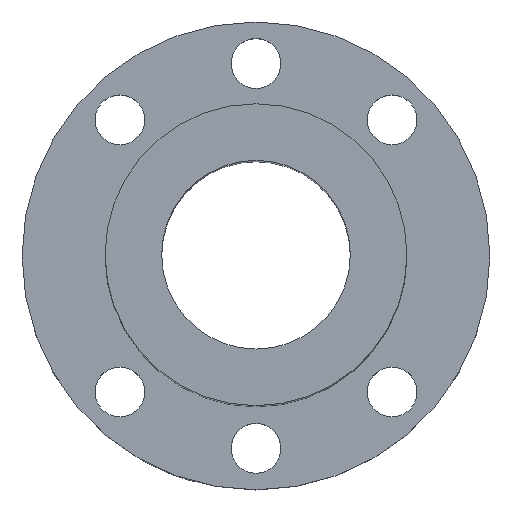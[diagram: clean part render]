
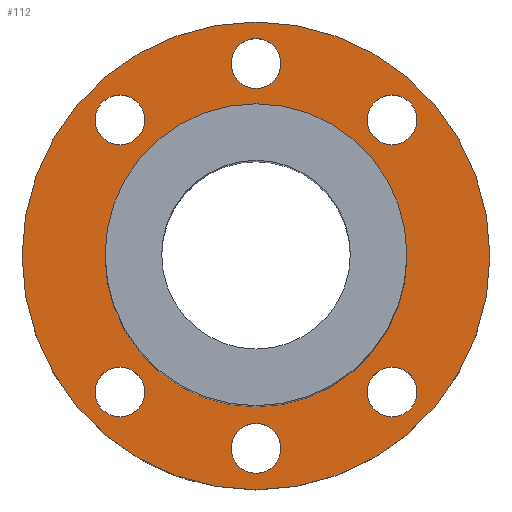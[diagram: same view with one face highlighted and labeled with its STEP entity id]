
A CAD part, top view. The second image highlights one B-rep face of the part: STEP entity #112.
In plain terms, the highlighted planar face has unit normal (0, 0, 1).
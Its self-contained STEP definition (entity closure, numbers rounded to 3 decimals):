
#99=PLANE('',#355);
#112=ADVANCED_FACE('',(#159,#160,#161,#162,#163,#164,#165,#166),#99,.T.);
#159=FACE_BOUND('',#203,.T.);
#160=FACE_BOUND('',#204,.T.);
#161=FACE_BOUND('',#205,.T.);
#162=FACE_BOUND('',#206,.T.);
#163=FACE_BOUND('',#207,.T.);
#164=FACE_BOUND('',#208,.T.);
#165=FACE_BOUND('',#209,.T.);
#166=FACE_BOUND('',#210,.T.);
#203=EDGE_LOOP('',(#247));
#204=EDGE_LOOP('',(#248));
#205=EDGE_LOOP('',(#249));
#206=EDGE_LOOP('',(#250));
#207=EDGE_LOOP('',(#251));
#208=EDGE_LOOP('',(#252));
#209=EDGE_LOOP('',(#253));
#210=EDGE_LOOP('',(#254));
#247=ORIENTED_EDGE('',*,*,#284,.T.);
#248=ORIENTED_EDGE('',*,*,#301,.T.);
#249=ORIENTED_EDGE('',*,*,#300,.F.);
#250=ORIENTED_EDGE('',*,*,#299,.F.);
#251=ORIENTED_EDGE('',*,*,#286,.T.);
#252=ORIENTED_EDGE('',*,*,#298,.T.);
#253=ORIENTED_EDGE('',*,*,#297,.F.);
#254=ORIENTED_EDGE('',*,*,#302,.T.);
#262=VERTEX_POINT('',#437);
#264=VERTEX_POINT('',#499);
#275=VERTEX_POINT('',#582);
#276=VERTEX_POINT('',#585);
#277=VERTEX_POINT('',#588);
#278=VERTEX_POINT('',#591);
#279=VERTEX_POINT('',#594);
#280=VERTEX_POINT('',#597);
#284=EDGE_CURVE('',#262,#262,#306,.T.);
#286=EDGE_CURVE('',#264,#264,#307,.T.);
#297=EDGE_CURVE('',#275,#275,#317,.T.);
#298=EDGE_CURVE('',#276,#276,#318,.T.);
#299=EDGE_CURVE('',#277,#277,#319,.T.);
#300=EDGE_CURVE('',#278,#278,#320,.T.);
#301=EDGE_CURVE('',#279,#279,#321,.T.);
#302=EDGE_CURVE('',#280,#280,#322,.T.);
#306=CIRCLE('',#327,31.);
#307=CIRCLE('',#329,20.);
#317=CIRCLE('',#343,3.3);
#318=CIRCLE('',#345,3.3);
#319=CIRCLE('',#347,3.3);
#320=CIRCLE('',#349,3.3);
#321=CIRCLE('',#351,3.3);
#322=CIRCLE('',#353,3.3);
#327=AXIS2_PLACEMENT_3D('',#436,#365,#366);
#329=AXIS2_PLACEMENT_3D('',#498,#369,#370);
#343=AXIS2_PLACEMENT_3D('',#581,#397,#398);
#345=AXIS2_PLACEMENT_3D('',#584,#401,#402);
#347=AXIS2_PLACEMENT_3D('',#587,#405,#406);
#349=AXIS2_PLACEMENT_3D('',#590,#409,#410);
#351=AXIS2_PLACEMENT_3D('',#593,#413,#414);
#353=AXIS2_PLACEMENT_3D('',#596,#417,#418);
#355=AXIS2_PLACEMENT_3D('',#599,#421,#422);
#365=DIRECTION('',(0.,0.,1.));
#366=DIRECTION('',(1.,0.,0.));
#369=DIRECTION('',(0.,0.,-1.));
#370=DIRECTION('',(1.,0.,0.));
#397=DIRECTION('',(0.,0.,1.));
#398=DIRECTION('',(1.,0.,0.));
#401=DIRECTION('',(0.,0.,-1.));
#402=DIRECTION('',(1.,0.,0.));
#405=DIRECTION('',(0.,0.,1.));
#406=DIRECTION('',(1.,0.,0.));
#409=DIRECTION('',(0.,0.,1.));
#410=DIRECTION('',(-1.,0.,0.));
#413=DIRECTION('',(0.,0.,-1.));
#414=DIRECTION('',(-1.,0.,0.));
#417=DIRECTION('',(0.,0.,-1.));
#418=DIRECTION('',(1.,0.,0.));
#421=DIRECTION('',(0.,0.,1.));
#422=DIRECTION('',(1.,0.,0.));
#436=CARTESIAN_POINT('',(0.,0.,10.));
#437=CARTESIAN_POINT('',(31.,0.,10.));
#498=CARTESIAN_POINT('',(0.,0.,10.));
#499=CARTESIAN_POINT('',(20.,0.,10.));
#581=CARTESIAN_POINT('',(-18.031,18.031,10.));
#582=CARTESIAN_POINT('',(-14.731,18.031,10.));
#584=CARTESIAN_POINT('',(-18.031,-18.031,10.));
#585=CARTESIAN_POINT('',(-14.731,-18.031,10.));
#587=CARTESIAN_POINT('',(0.,25.5,10.));
#588=CARTESIAN_POINT('',(3.3,25.5,10.));
#590=CARTESIAN_POINT('',(18.031,-18.031,10.));
#591=CARTESIAN_POINT('',(14.731,-18.031,10.));
#593=CARTESIAN_POINT('',(18.031,18.031,10.));
#594=CARTESIAN_POINT('',(14.731,18.031,10.));
#596=CARTESIAN_POINT('',(0.,-25.5,10.));
#597=CARTESIAN_POINT('',(3.3,-25.5,10.));
#599=CARTESIAN_POINT('',(9.016,9.016,10.));
